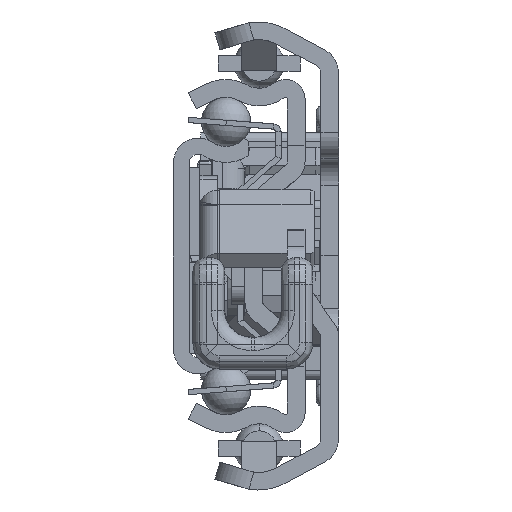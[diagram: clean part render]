
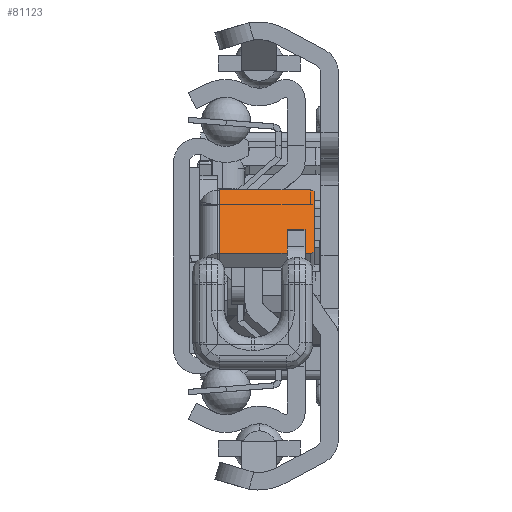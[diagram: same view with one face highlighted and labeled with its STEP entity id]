
A CAD part, left-side view. The second image highlights one B-rep face of the part: STEP entity #81123.
In plain terms, the highlighted planar face has unit normal (-0.597, 0, 0.802) as drawn and (-0.597, -0.802, 0) by its records, which use the part's own axes.
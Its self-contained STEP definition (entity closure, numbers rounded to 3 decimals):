
#80511=DIRECTION('',(0.802,-0.597,0.));
#80512=VECTOR('',#80511,12.);
#80513=CARTESIAN_POINT('',(31.957,-10.314,-0.2));
#80514=LINE('',#80513,#80512);
#80539=DIRECTION('',(0.,0.,1.));
#80540=VECTOR('',#80539,10.3);
#80541=CARTESIAN_POINT('',(41.586,-17.476,-10.5));
#80542=LINE('',#80541,#80540);
#80543=CARTESIAN_POINT('',(41.184,-17.178,-10.5));
#80544=DIRECTION('',(-0.597,-0.802,0.));
#80545=DIRECTION('',(0.,0.,-1.));
#80546=AXIS2_PLACEMENT_3D('',#80543,#80544,#80545);
#80548=DIRECTION('',(0.802,-0.597,0.));
#80549=VECTOR('',#80548,11.);
#80550=CARTESIAN_POINT('',(32.358,-10.613,-11.));
#80551=LINE('',#80550,#80549);
#80552=CARTESIAN_POINT('',(32.358,-10.613,-10.5));
#80553=DIRECTION('',(-0.597,-0.802,0.));
#80554=DIRECTION('',(-0.802,0.597,0.));
#80555=AXIS2_PLACEMENT_3D('',#80552,#80553,#80554);
#80557=DIRECTION('',(0.,0.,-1.));
#80558=VECTOR('',#80557,10.3);
#80559=CARTESIAN_POINT('',(31.957,-10.314,-0.2));
#80560=LINE('',#80559,#80558);
#80777=CARTESIAN_POINT('',(31.957,-10.314,-0.2));
#80778=CARTESIAN_POINT('',(41.586,-17.476,-0.2));
#80779=VERTEX_POINT('',#80777);
#80780=VERTEX_POINT('',#80778);
#80809=CARTESIAN_POINT('',(41.586,-17.476,-10.5));
#80810=VERTEX_POINT('',#80809);
#80811=CARTESIAN_POINT('',(32.358,-10.613,-11.));
#80812=CARTESIAN_POINT('',(41.184,-17.178,-11.));
#80813=VERTEX_POINT('',#80811);
#80814=VERTEX_POINT('',#80812);
#80815=CARTESIAN_POINT('',(31.957,-10.314,-10.5));
#80816=VERTEX_POINT('',#80815);
#81105=CARTESIAN_POINT('',(34.726,-12.374,2.));
#81106=DIRECTION('',(0.597,0.802,0.));
#81107=DIRECTION('',(0.802,-0.597,0.));
#81108=AXIS2_PLACEMENT_3D('',#81105,#81106,#81107);
#81109=PLANE('',#81108);
#81111=ORIENTED_EDGE('',*,*,#81110,.F.);
#81113=ORIENTED_EDGE('',*,*,#81112,.F.);
#81115=ORIENTED_EDGE('',*,*,#81114,.F.);
#81117=ORIENTED_EDGE('',*,*,#81116,.F.);
#81119=ORIENTED_EDGE('',*,*,#81118,.F.);
#81120=ORIENTED_EDGE('',*,*,#81092,.T.);
#81121=EDGE_LOOP('',(#81111,#81113,#81115,#81117,#81119,#81120));
#81122=FACE_OUTER_BOUND('',#81121,.F.);
#80547=CIRCLE('',#80546,0.5);
#80556=CIRCLE('',#80555,0.5);
#81092=EDGE_CURVE('',#80779,#80780,#80514,.T.);
#81110=EDGE_CURVE('',#80810,#80780,#80542,.T.);
#81112=EDGE_CURVE('',#80814,#80810,#80547,.T.);
#81114=EDGE_CURVE('',#80813,#80814,#80551,.T.);
#81116=EDGE_CURVE('',#80816,#80813,#80556,.T.);
#81118=EDGE_CURVE('',#80779,#80816,#80560,.T.);
#81123=ADVANCED_FACE('',(#81122),#81109,.F.);
